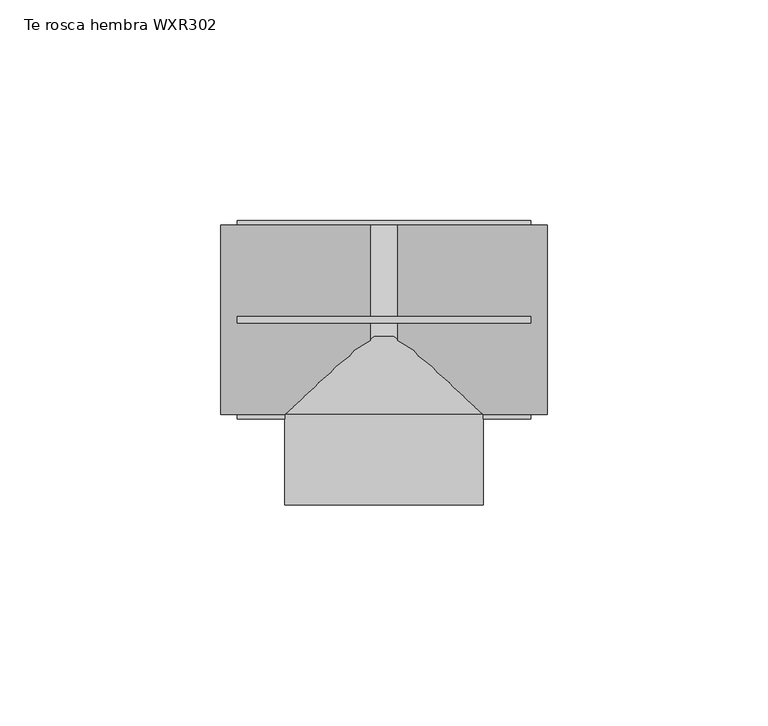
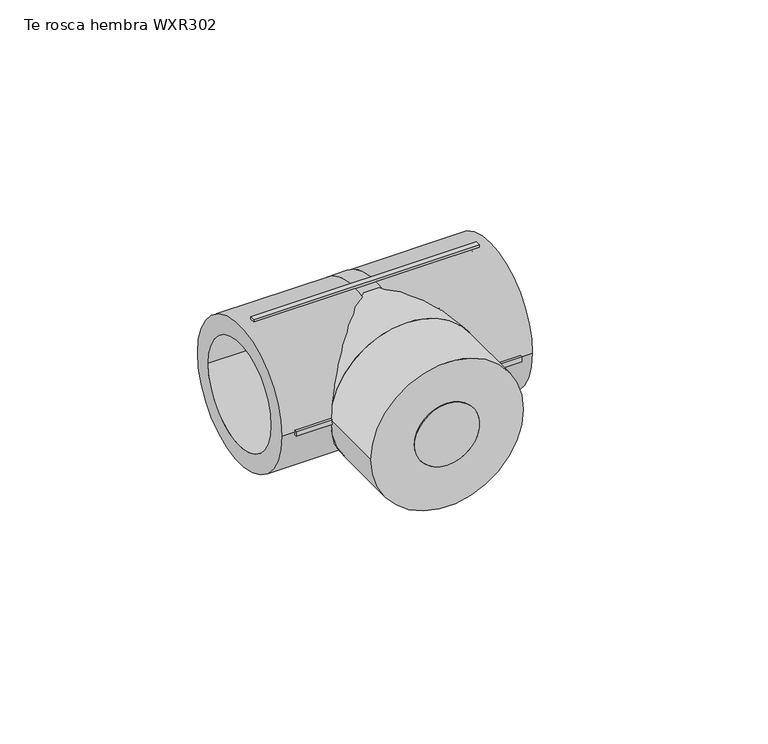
"""IFC4 building model written with IfcOpenShell, lengths in millimetres: pipe fitting geometry, EGB_VASEN_ PPR_Te rosca hembra WXR302 : Te rosca hembra WXR302."""

from ifc_helpers import new_model, si_unit, point, frame, origin, origin_2d, place, context, project, spatial, polyline, circle_curve, trimmed, segment, composite_curve, outline, extrude, source, transform, mapped, element, save
from ifc_brep_helpers import plane_surface, cylinder_surface, revolved_surface, advanced_brep


def te_rosca_hembra_wxr302_30e74c4f(model_context):
    return source(origin(), model_context, "Body", "SolidModel", [
        extrude(outline(composite_curve([segment(trimmed(circle_curve(origin_2d(), 9.525), [point((-9.525, 0.0))], [point((9.525, 0.0))], False, "CARTESIAN"), True, "CONTINUOUS"), segment(trimmed(circle_curve(origin_2d(), 9.525), [point((9.525, 0.0))], [point((-9.525, 0.0))], False, "CARTESIAN"), True, "CONTINUOUS")], self_intersect=False)), frame((0.0, -42.0, 0.0), z_axis=(0.0, 1.0, 0.0), x_axis=(0.0, 0.0, 1.0)), (0.0, 0.0, 1.0), 20.5),
        advanced_brep(
        [(2.96, -16.0, 0.0), (2.96, 16.0, 0.0), (-2.96, 16.0, 0.0), (-2.96, -16.0, 0.0), (-2.96, 21.5, 0.0), (2.96, 21.5, 0.0), (2.96, -21.5, 0.0), (-2.96, -21.5, 0.0), (37.0, -21.5, 0.0), (37.0, 21.5, 0.0), (37.0, -16.0, 0.0), (37.0, 16.0, 0.0), (-37.0, -21.5, 0.0), (-37.0, 21.5, 0.0), (-37.0, -16.0, 0.0), (-37.0, 16.0, 0.0)],
        [
            (0, 1, circle_curve(frame((2.96, 0.0, 0.0), z_axis=(1.0, 0.0, 0.0), x_axis=(0.0, 1.0, 0.0)), 16.0)),
            (1, 0, circle_curve(frame((2.96, 0.0, 0.0), z_axis=(1.0, 0.0, 0.0), x_axis=(0.0, 1.0, 0.0)), 16.0)),
            (2, 3, circle_curve(frame((-2.96, 0.0, 0.0), z_axis=(-1.0, 0.0, 0.0), x_axis=(0.0, 1.0, 0.0)), 16.0)),
            (3, 2, circle_curve(frame((-2.96, 0.0, 0.0), z_axis=(-1.0, 0.0, 0.0), x_axis=(0.0, 1.0, 0.0)), 16.0)),
            (4, 5),
            (5, 6, circle_curve(frame((2.96, 0.0, 0.0), z_axis=(-1.0, 0.0, 0.0), x_axis=(0.0, 0.0, -1.0)), 21.5)),
            (6, 7),
            (7, 4, circle_curve(frame((-2.96, 0.0, 0.0), z_axis=(1.0, 0.0, 0.0), x_axis=(0.0, 0.0, -1.0)), 21.5)),
            (4, 7, circle_curve(frame((-2.96, 0.0, 0.0), z_axis=(1.0, 0.0, 0.0), x_axis=(0.0, 0.0, 1.0)), 21.5)),
            (6, 5, circle_curve(frame((2.96, 0.0, 0.0), z_axis=(-1.0, 0.0, 0.0), x_axis=(0.0, 0.0, 1.0)), 21.5)),
            (8, 9, circle_curve(frame((37.0, 0.0, 0.0), z_axis=(1.0, 0.0, 0.0), x_axis=(0.0, 1.0, 0.0)), 21.5)),
            (9, 8, circle_curve(frame((37.0, 0.0, 0.0), z_axis=(1.0, 0.0, 0.0), x_axis=(0.0, 1.0, 0.0)), 21.5)),
            (10, 11, circle_curve(frame((37.0, 0.0, 0.0), z_axis=(-1.0, 0.0, 0.0), x_axis=(0.0, 1.0, 0.0)), 16.0)),
            (11, 10, circle_curve(frame((37.0, 0.0, 0.0), z_axis=(-1.0, 0.0, 0.0), x_axis=(0.0, 1.0, 0.0)), 16.0)),
            (9, 5),
            (6, 8),
            (11, 1),
            (0, 10),
            (12, 13, circle_curve(frame((-37.0, 0.0, 0.0), z_axis=(-1.0, 0.0, 0.0), x_axis=(0.0, 1.0, 0.0)), 21.5)),
            (13, 12, circle_curve(frame((-37.0, 0.0, 0.0), z_axis=(-1.0, 0.0, 0.0), x_axis=(0.0, 1.0, 0.0)), 21.5)),
            (14, 15, circle_curve(frame((-37.0, 0.0, 0.0), z_axis=(1.0, 0.0, 0.0), x_axis=(0.0, 1.0, 0.0)), 16.0)),
            (15, 14, circle_curve(frame((-37.0, 0.0, 0.0), z_axis=(1.0, 0.0, 0.0), x_axis=(0.0, 1.0, 0.0)), 16.0)),
            (12, 7),
            (4, 13),
            (14, 3),
            (2, 15),
        ],
        [
            plane_surface(frame((2.96, 0.0, 0.0), z_axis=(1.0, 0.0, 0.0), x_axis=(0.0, 0.0, -1.0))),
            plane_surface(frame((-2.96, 0.0, 0.0), z_axis=(-1.0, 0.0, 0.0), x_axis=(0.0, 0.0, -1.0))),
            cylinder_surface(frame((-2.96, 0.0, 0.0), z_axis=(1.0, 0.0, 0.0), x_axis=(0.0, 0.0, -1.0)), 21.5),
            cylinder_surface(frame((-2.96, 0.0, 0.0), z_axis=(1.0, 0.0, 0.0), x_axis=(0.0, 0.0, 1.0)), 21.5),
            plane_surface(frame((37.0, 0.0, 0.0), z_axis=(1.0, 0.0, 0.0), x_axis=(0.0, 0.0, 1.0))),
            cylinder_surface(frame((2.96, 0.0, 0.0), z_axis=(-1.0, 0.0, 0.0), x_axis=(0.0, 1.0, 0.0)), 21.5),
            revolved_surface(polyline([(37.0, 16.0, 0.0), (2.96, 16.0, 0.0)]), (2.96, 0.0, 0.0), (1.0, 0.0, 0.0)),
            plane_surface(frame((-37.0, 0.0, 0.0), z_axis=(-1.0, 0.0, 0.0), x_axis=(0.0, 0.0, 1.0))),
            cylinder_surface(frame((-37.0, 0.0, 0.0), z_axis=(-1.0, 0.0, 0.0), x_axis=(0.0, 1.0, 0.0)), 21.5),
            revolved_surface(polyline([(-2.960000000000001, 16.0, 0.0), (-37.0, 16.0, 0.0)]), (-37.0, 0.0, 0.0), (1.0, 0.0, 0.0)),
        ],
        [
            (0, [[1, 2]]),
            (1, [[3, 4]]),
            (2, [[5, 6, 7, 8]]),
            (3, [[-5, 9, -7, 10]]),
            (4, [[11, 12], [13, 14]]),
            (5, [[-12, 15, -10, 16]]),
            (5, [[-11, -16, -6, -15]]),
            (6, [[-14, 17, -1, 18]]),
            (6, [[-13, -18, -2, -17]]),
            (7, [[19, 20], [21, 22]]),
            (8, [[-19, 23, -9, 24]]),
            (8, [[-20, -24, -8, -23]]),
            (9, [[-21, 25, -3, 26]]),
            (9, [[-22, -26, -4, -25]]),
        ],
    ),
        extrude(outline(composite_curve([segment(trimmed(circle_curve(origin_2d(), 22.5), [point((0.0, 22.5))], [point((0.0, -22.5))], False, "CARTESIAN"), True, "CONTINUOUS"), segment(trimmed(circle_curve(origin_2d(), 22.5), [point((0.0, -22.5))], [point((0.0, 22.5))], False, "CARTESIAN"), True, "CONTINUOUS")], self_intersect=False), holes=[composite_curve([segment(trimmed(circle_curve(origin_2d(), 9.525), [point((0.0, 9.525))], [point((0.0, -9.525))], True, "CARTESIAN"), True, "CONTINUOUS"), segment(trimmed(circle_curve(origin_2d(), 9.525), [point((0.0, -9.525))], [point((0.0, 9.525))], True, "CARTESIAN"), True, "CONTINUOUS")], self_intersect=False)]), frame((0.0, -42.0, 0.0), z_axis=(0.0, 1.0, 0.0), x_axis=(0.0, 0.0, 1.0)), (0.0, 0.0, 1.0), 20.5),
        advanced_brep(
        [(21.5, 0.0, 0.0), (-21.5, 0.0, 0.0), (22.5, -21.5, 0.0), (-22.5, -21.5, 0.0)],
        [
            (0, 1, circle_curve(frame((0.0, 0.0, 0.0), z_axis=(0.0, 1.0, 0.0), x_axis=(1.0, 0.0, 0.0)), 21.5)),
            (1, 0, circle_curve(frame((0.0, 0.0, 0.0), z_axis=(0.0, 1.0, 0.0), x_axis=(-1.0, 0.0, 0.0)), 21.5)),
            (2, 3, circle_curve(frame((0.0, -21.5, 0.0), z_axis=(0.0, -1.0, 0.0), x_axis=(-1.0, 0.0, 0.0)), 22.5)),
            (3, 2, circle_curve(frame((0.0, -21.5, 0.0), z_axis=(0.0, -1.0, 0.0), x_axis=(1.0, 0.0, 0.0)), 22.5)),
            (3, 1),
            (0, 2),
        ],
        [
            plane_surface(frame((0.0, 0.0, 0.0), z_axis=(0.0, 1.0, 0.0), x_axis=(0.0, 0.0, -1.0))),
            plane_surface(frame((0.0, -21.5, 0.0), z_axis=(0.0, -1.0, 0.0), x_axis=(0.0, 0.0, -1.0))),
            revolved_surface(polyline([(21.5, 0.0, 0.0), (22.5, -21.5, 0.0)]), (0.0, 462.25, 0.0), (0.0, -1.0, 0.0)),
            revolved_surface(polyline([(-21.5, 0.0, 0.0), (-22.5, -21.5, 0.0)]), (0.0, 462.25, 0.0), (0.0, -1.0, 0.0)),
        ],
        [
            (0, [[1, 2]]),
            (1, [[3, 4]]),
            (2, [[-4, 5, -1, 6]]),
            (3, [[-3, -6, -2, -5]]),
        ],
    ),
        extrude(outline(polyline([(33.3, 0.75), (33.3, -0.75), (-33.3, -0.75), (-33.3, 0.75), (33.3, 0.75)])), frame((0.0, 0.0, 20.5), z_axis=(0.0, 0.0, 1.0), x_axis=(1.0, 0.0, 0.0)), (0.0, 0.0, 1.0), 2.0),
        extrude(outline(polyline([(33.3, 0.75), (33.3, -0.75), (-33.3, -0.75), (-33.3, 0.75), (33.3, 0.75)])), frame((0.0, 0.0, -22.5), z_axis=(0.0, 0.0, 1.0), x_axis=(1.0, 0.0, 0.0)), (0.0, 0.0, 1.0), 2.0),
        extrude(outline(polyline([(33.3, 22.5), (33.3, 20.5), (-33.3, 20.5), (-33.3, 22.5), (33.3, 22.5)])), frame((0.0, 0.0, -0.75), z_axis=(0.0, 0.0, 1.0), x_axis=(1.0, 0.0, 0.0)), (0.0, 0.0, 1.0), 1.5),
        extrude(outline(polyline([(33.3, -20.5), (33.3, -22.5), (-33.3, -22.5), (-33.3, -20.5), (33.3, -20.5)])), frame((0.0, 0.0, -0.75), z_axis=(0.0, 0.0, 1.0), x_axis=(1.0, 0.0, 0.0)), (0.0, 0.0, 1.0), 1.5),
    ])


if __name__ == "__main__":
    model = new_model("IFC4")
    model_context = context("Model", 3, world=origin())
    ifc_project = project(units=[si_unit("LENGTHUNIT", "METRE", prefix="MILLI")], contexts=[model_context])
    site = spatial("IfcSite", under=ifc_project)
    building = spatial("IfcBuilding", under=site)
    placement = place(None, origin())
    te_rosca_hembra_wxr302_shape = te_rosca_hembra_wxr302_30e74c4f(model_context)
    element("IfcPipeFitting", 1, ObjectType="EGB_VASEN_ PPR_Te rosca hembra WXR302 : Te rosca hembra WXR302", at=placement, inside=building, context=model_context, shape_type="MappedRepresentation", body=[
        mapped(te_rosca_hembra_wxr302_shape, transform((0.0, 0.0, 0.0), x_axis=(1.0, 0.0, 0.0), y_axis=(0.0, 1.0, 0.0), z_axis=(0.0, 0.0, 1.0))),
    ])
    save(model, "model.ifc")
